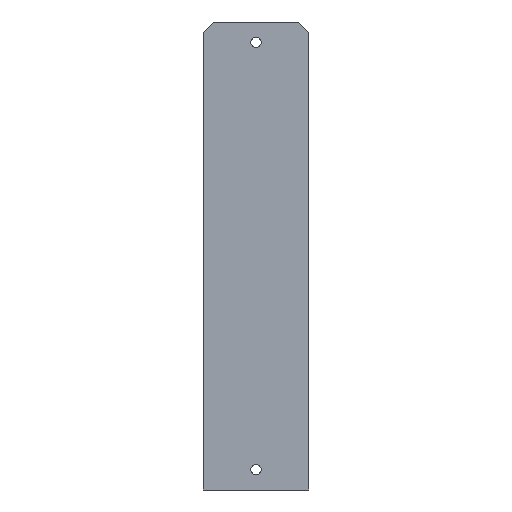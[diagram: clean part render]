
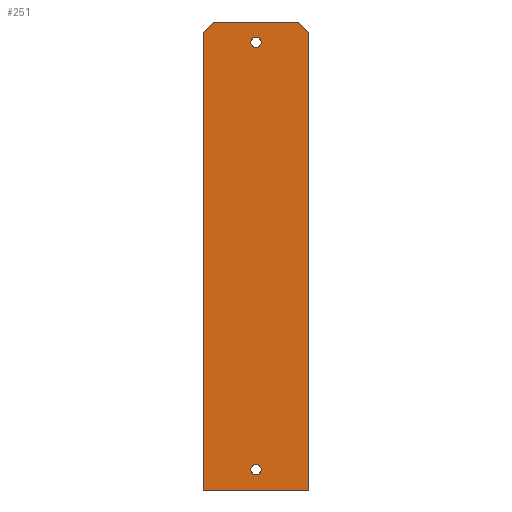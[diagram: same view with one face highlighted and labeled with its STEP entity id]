
A CAD part, front view. The second image highlights one B-rep face of the part: STEP entity #251.
In plain terms, the highlighted planar face has unit normal (0, -1, 0).
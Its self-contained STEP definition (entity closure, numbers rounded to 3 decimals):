
#3 = EDGE_CURVE ( 'NONE', #247, #139, #288, .T. ) ;
#6 = VECTOR ( 'NONE', #185, 1000. ) ;
#16 = EDGE_CURVE ( 'NONE', #33, #347, #415, .T. ) ;
#17 = DIRECTION ( 'NONE',  ( 0., 0., 1. ) ) ;
#21 = FACE_BOUND ( 'NONE', #134, .T. ) ;
#23 = AXIS2_PLACEMENT_3D ( 'NONE', #38, #166, #392 ) ;
#25 = CARTESIAN_POINT ( 'NONE',  ( 10.4, 0., 44. ) ) ;
#26 = VERTEX_POINT ( 'NONE', #290 ) ;
#31 = VERTEX_POINT ( 'NONE', #204 ) ;
#33 = VERTEX_POINT ( 'NONE', #277 ) ;
#38 = CARTESIAN_POINT ( 'NONE',  ( 0., 0., 42. ) ) ;
#42 = ORIENTED_EDGE ( 'NONE', *, *, #115, .T. ) ;
#48 = EDGE_CURVE ( 'NONE', #31, #393, #239, .T. ) ;
#57 = ORIENTED_EDGE ( 'NONE', *, *, #65, .T. ) ;
#59 = LINE ( 'NONE', #380, #279 ) ;
#61 = CARTESIAN_POINT ( 'NONE',  ( -8.4, 0., 46. ) ) ;
#63 = ORIENTED_EDGE ( 'NONE', *, *, #156, .F. ) ;
#65 = EDGE_CURVE ( 'NONE', #393, #31, #356, .T. ) ;
#70 = CARTESIAN_POINT ( 'NONE',  ( 0., 0., 41. ) ) ;
#72 = VECTOR ( 'NONE', #411, 1000. ) ;
#81 = VECTOR ( 'NONE', #358, 1000. ) ;
#87 = DIRECTION ( 'NONE',  ( 0., 0., -1. ) ) ;
#102 = ORIENTED_EDGE ( 'NONE', *, *, #167, .F. ) ;
#107 = ORIENTED_EDGE ( 'NONE', *, *, #151, .T. ) ;
#114 = CARTESIAN_POINT ( 'NONE',  ( -10.4, 0., 44. ) ) ;
#115 = EDGE_CURVE ( 'NONE', #347, #33, #223, .T. ) ;
#118 = LINE ( 'NONE', #353, #401 ) ;
#119 = VERTEX_POINT ( 'NONE', #114 ) ;
#127 = VERTEX_POINT ( 'NONE', #402 ) ;
#134 = EDGE_LOOP ( 'NONE', ( #57, #198 ) ) ;
#139 = VERTEX_POINT ( 'NONE', #244 ) ;
#151 = EDGE_CURVE ( 'NONE', #412, #139, #374, .T. ) ;
#153 = CARTESIAN_POINT ( 'NONE',  ( 0., 0., 0. ) ) ;
#156 = EDGE_CURVE ( 'NONE', #412, #26, #59, .T. ) ;
#157 = DIRECTION ( 'NONE',  ( 0., 0., 1. ) ) ;
#158 = ORIENTED_EDGE ( 'NONE', *, *, #3, .F. ) ;
#159 = CARTESIAN_POINT ( 'NONE',  ( -10.4, 0., -46. ) ) ;
#161 = LINE ( 'NONE', #413, #6 ) ;
#166 = DIRECTION ( 'NONE',  ( 0., 1., 0. ) ) ;
#167 = EDGE_CURVE ( 'NONE', #26, #127, #349, .T. ) ;
#176 = CARTESIAN_POINT ( 'NONE',  ( 0., 0., 42. ) ) ;
#180 = AXIS2_PLACEMENT_3D ( 'NONE', #278, #404, #245 ) ;
#184 = DIRECTION ( 'NONE',  ( 0., 1., 0. ) ) ;
#185 = DIRECTION ( 'NONE',  ( 0., 0., 1. ) ) ;
#191 = EDGE_CURVE ( 'NONE', #247, #119, #118, .T. ) ;
#196 = CARTESIAN_POINT ( 'NONE',  ( -10.4, 0., 46. ) ) ;
#198 = ORIENTED_EDGE ( 'NONE', *, *, #48, .T. ) ;
#204 = CARTESIAN_POINT ( 'NONE',  ( 0., 0., -43. ) ) ;
#206 = AXIS2_PLACEMENT_3D ( 'NONE', #153, #184, #157 ) ;
#216 = FACE_BOUND ( 'NONE', #414, .T. ) ;
#222 = CARTESIAN_POINT ( 'NONE',  ( 10.4, 0., 44. ) ) ;
#223 = CIRCLE ( 'NONE', #364, 1. ) ;
#239 = CIRCLE ( 'NONE', #180, 1. ) ;
#244 = CARTESIAN_POINT ( 'NONE',  ( 8.4, 0., 46. ) ) ;
#245 = DIRECTION ( 'NONE',  ( 0., 0., 1. ) ) ;
#246 = DIRECTION ( 'NONE',  ( -0.707, 0., -0.707 ) ) ;
#247 = VERTEX_POINT ( 'NONE', #61 ) ;
#251 = ADVANCED_FACE ( 'NONE', ( #21, #216, #351 ), #316, .F. ) ;
#258 = EDGE_CURVE ( 'NONE', #127, #119, #161, .T. ) ;
#263 = ORIENTED_EDGE ( 'NONE', *, *, #16, .T. ) ;
#272 = DIRECTION ( 'NONE',  ( 0., 1., 0. ) ) ;
#277 = CARTESIAN_POINT ( 'NONE',  ( 0., 0., 43. ) ) ;
#278 = CARTESIAN_POINT ( 'NONE',  ( 0., 0., -42. ) ) ;
#279 = VECTOR ( 'NONE', #87, 1000. ) ;
#285 = AXIS2_PLACEMENT_3D ( 'NONE', #342, #272, #400 ) ;
#288 = LINE ( 'NONE', #196, #81 ) ;
#290 = CARTESIAN_POINT ( 'NONE',  ( 10.4, 0., -46. ) ) ;
#300 = DIRECTION ( 'NONE',  ( 0., 1., 0. ) ) ;
#312 = VECTOR ( 'NONE', #375, 1000. ) ;
#316 = PLANE ( 'NONE',  #206 ) ;
#342 = CARTESIAN_POINT ( 'NONE',  ( 0., 0., -42. ) ) ;
#347 = VERTEX_POINT ( 'NONE', #70 ) ;
#349 = LINE ( 'NONE', #159, #72 ) ;
#351 = FACE_OUTER_BOUND ( 'NONE', #410, .T. ) ;
#353 = CARTESIAN_POINT ( 'NONE',  ( -8.4, 0., 46. ) ) ;
#356 = CIRCLE ( 'NONE', #285, 1. ) ;
#358 = DIRECTION ( 'NONE',  ( 1., 0., 0. ) ) ;
#360 = ORIENTED_EDGE ( 'NONE', *, *, #191, .T. ) ;
#364 = AXIS2_PLACEMENT_3D ( 'NONE', #176, #300, #17 ) ;
#374 = LINE ( 'NONE', #25, #312 ) ;
#375 = DIRECTION ( 'NONE',  ( -0.707, 0., 0.707 ) ) ;
#380 = CARTESIAN_POINT ( 'NONE',  ( 10.4, 0., -46. ) ) ;
#386 = CARTESIAN_POINT ( 'NONE',  ( 0., 0., -41. ) ) ;
#392 = DIRECTION ( 'NONE',  ( 0., 0., 1. ) ) ;
#393 = VERTEX_POINT ( 'NONE', #386 ) ;
#395 = ORIENTED_EDGE ( 'NONE', *, *, #258, .F. ) ;
#400 = DIRECTION ( 'NONE',  ( 0., 0., 1. ) ) ;
#401 = VECTOR ( 'NONE', #246, 1000. ) ;
#402 = CARTESIAN_POINT ( 'NONE',  ( -10.4, 0., -46. ) ) ;
#404 = DIRECTION ( 'NONE',  ( 0., 1., 0. ) ) ;
#410 = EDGE_LOOP ( 'NONE', ( #63, #107, #158, #360, #395, #102 ) ) ;
#411 = DIRECTION ( 'NONE',  ( -1., 0., 0. ) ) ;
#412 = VERTEX_POINT ( 'NONE', #222 ) ;
#413 = CARTESIAN_POINT ( 'NONE',  ( -10.4, 0., -46. ) ) ;
#414 = EDGE_LOOP ( 'NONE', ( #263, #42 ) ) ;
#415 = CIRCLE ( 'NONE', #23, 1. ) ;
